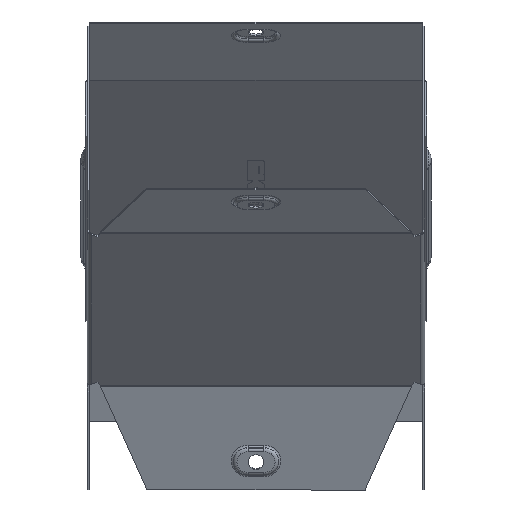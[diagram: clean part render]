
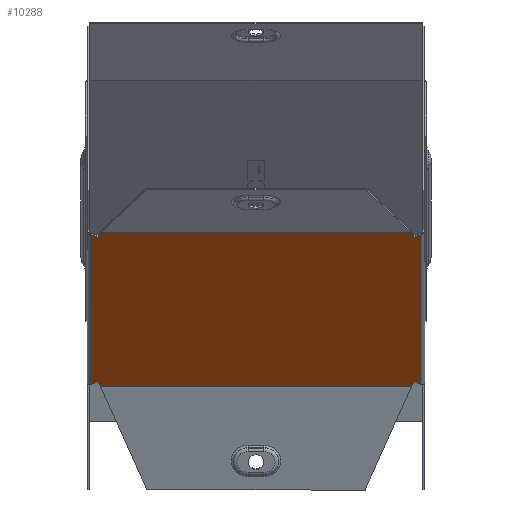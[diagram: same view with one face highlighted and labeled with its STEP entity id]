
A CAD part, top view. The second image highlights one B-rep face of the part: STEP entity #10288.
In plain terms, the highlighted planar face has unit normal (0, -0.707, 0.707).
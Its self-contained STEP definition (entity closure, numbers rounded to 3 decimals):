
#28 = CARTESIAN_POINT ( 'NONE',  ( 48.5, -33.327, -105.445 ) ) ;
#68 = VERTEX_POINT ( 'NONE', #5411 ) ;
#290 = PLANE ( 'NONE',  #4513 ) ;
#340 = EDGE_CURVE ( 'NONE', #8019, #2594, #5427, .T. ) ;
#346 = CARTESIAN_POINT ( 'NONE',  ( 70.217, 3.747, -68.371 ) ) ;
#581 = CARTESIAN_POINT ( 'NONE',  ( -73.2, 69.245, -2.873 ) ) ;
#654 = LINE ( 'NONE', #11136, #3346 ) ;
#800 = VECTOR ( 'NONE', #8642, 1000. ) ;
#934 = LINE ( 'NONE', #11237, #9920 ) ;
#1061 = ORIENTED_EDGE ( 'NONE', *, *, #2183, .T. ) ;
#1208 = EDGE_CURVE ( 'NONE', #3457, #68, #7227, .T. ) ;
#1351 = ORIENTED_EDGE ( 'NONE', *, *, #6626, .T. ) ;
#1367 = CARTESIAN_POINT ( 'NONE',  ( -70.217, 68.371, -3.747 ) ) ;
#1660 = VECTOR ( 'NONE', #9954, 1000. ) ;
#1710 = VERTEX_POINT ( 'NONE', #11220 ) ;
#1872 = DIRECTION ( 'NONE',  ( 0.383, 0.653, 0.653 ) ) ;
#2052 = CARTESIAN_POINT ( 'NONE',  ( 73.2, 70., -2.118 ) ) ;
#2100 = VERTEX_POINT ( 'NONE', #2876 ) ;
#2183 = EDGE_CURVE ( 'NONE', #8581, #2100, #4833, .T. ) ;
#2274 = CARTESIAN_POINT ( 'NONE',  ( -70.217, 3.747, -68.371 ) ) ;
#2296 = VECTOR ( 'NONE', #10876, 1000. ) ;
#2538 = ORIENTED_EDGE ( 'NONE', *, *, #9861, .T. ) ;
#2594 = VERTEX_POINT ( 'NONE', #11168 ) ;
#2734 = CARTESIAN_POINT ( 'NONE',  ( 75.299, 69.859, -2.258 ) ) ;
#2843 = ORIENTED_EDGE ( 'NONE', *, *, #1208, .T. ) ;
#2876 = CARTESIAN_POINT ( 'NONE',  ( -70.217, 68.371, -3.747 ) ) ;
#3009 = CARTESIAN_POINT ( 'NONE',  ( 73.2, 70., -2.118 ) ) ;
#3190 = EDGE_CURVE ( 'NONE', #68, #7288, #7861, .T. ) ;
#3346 = VECTOR ( 'NONE', #8609, 1000. ) ;
#3457 = VERTEX_POINT ( 'NONE', #7118 ) ;
#3562 = ORIENTED_EDGE ( 'NONE', *, *, #340, .F. ) ;
#3577 = CARTESIAN_POINT ( 'NONE',  ( 69.345, 2.258, -69.859 ) ) ;
#4029 = VERTEX_POINT ( 'NONE', #9085 ) ;
#4043 = EDGE_CURVE ( 'NONE', #8019, #1710, #6728, .T. ) ;
#4193 = LINE ( 'NONE', #6078, #800 ) ;
#4210 = EDGE_CURVE ( 'NONE', #7690, #2594, #9382, .T. ) ;
#4302 = CARTESIAN_POINT ( 'NONE',  ( -69.345, 2.258, -69.859 ) ) ;
#4505 = EDGE_CURVE ( 'NONE', #9226, #7690, #7701, .T. ) ;
#4513 = AXIS2_PLACEMENT_3D ( 'NONE', #2052, #6577, #4876 ) ;
#4541 = VECTOR ( 'NONE', #7642, 1000. ) ;
#4655 = CARTESIAN_POINT ( 'NONE',  ( -75.299, 69.859, -2.258 ) ) ;
#4729 = EDGE_CURVE ( 'NONE', #9226, #7288, #654, .T. ) ;
#4760 = ORIENTED_EDGE ( 'NONE', *, *, #3190, .T. ) ;
#4833 = LINE ( 'NONE', #1367, #4541 ) ;
#4870 = VECTOR ( 'NONE', #9712, 1000. ) ;
#4876 = DIRECTION ( 'NONE',  ( 0., 0.707, 0.707 ) ) ;
#4929 = DIRECTION ( 'NONE',  ( 0.383, -0.653, -0.653 ) ) ;
#4977 = DIRECTION ( 'NONE',  ( -0.383, 0.653, 0.653 ) ) ;
#5205 = VECTOR ( 'NONE', #5822, 1000. ) ;
#5239 = CARTESIAN_POINT ( 'NONE',  ( -69.345, 69.859, -2.258 ) ) ;
#5411 = CARTESIAN_POINT ( 'NONE',  ( -70.217, 3.747, -68.371 ) ) ;
#5427 = LINE ( 'NONE', #3009, #6543 ) ;
#5822 = DIRECTION ( 'NONE',  ( 0.924, -0.271, -0.271 ) ) ;
#6078 = CARTESIAN_POINT ( 'NONE',  ( 73.2, 69.859, -2.258 ) ) ;
#6241 = EDGE_CURVE ( 'NONE', #4029, #8581, #4193, .T. ) ;
#6287 = LINE ( 'NONE', #6723, #10469 ) ;
#6543 = VECTOR ( 'NONE', #9422, 1000. ) ;
#6577 = DIRECTION ( 'NONE',  ( 0., 0.707, -0.707 ) ) ;
#6616 = VECTOR ( 'NONE', #4929, 1000. ) ;
#6626 = EDGE_CURVE ( 'NONE', #7764, #3457, #934, .T. ) ;
#6714 = EDGE_CURVE ( 'NONE', #1710, #4029, #6287, .T. ) ;
#6723 = CARTESIAN_POINT ( 'NONE',  ( 48.5, 105.445, 33.327 ) ) ;
#6728 = LINE ( 'NONE', #2734, #1660 ) ;
#6984 = ORIENTED_EDGE ( 'NONE', *, *, #6241, .T. ) ;
#7118 = CARTESIAN_POINT ( 'NONE',  ( -73.2, 2.873, -69.245 ) ) ;
#7227 = LINE ( 'NONE', #8024, #4870 ) ;
#7288 = VERTEX_POINT ( 'NONE', #4302 ) ;
#7642 = DIRECTION ( 'NONE',  ( -0.383, -0.653, -0.653 ) ) ;
#7690 = VERTEX_POINT ( 'NONE', #346 ) ;
#7701 = LINE ( 'NONE', #28, #8239 ) ;
#7764 = VERTEX_POINT ( 'NONE', #581 ) ;
#7861 = LINE ( 'NONE', #2274, #6616 ) ;
#7952 = EDGE_LOOP ( 'NONE', ( #8328, #9344, #3562, #9742, #8755, #6984, #1061, #2538, #1351, #2843, #4760, #9829 ) ) ;
#8019 = VERTEX_POINT ( 'NONE', #9895 ) ;
#8024 = CARTESIAN_POINT ( 'NONE',  ( -75.299, 2.258, -69.859 ) ) ;
#8239 = VECTOR ( 'NONE', #1872, 1000. ) ;
#8328 = ORIENTED_EDGE ( 'NONE', *, *, #4505, .T. ) ;
#8581 = VERTEX_POINT ( 'NONE', #5239 ) ;
#8609 = DIRECTION ( 'NONE',  ( -1., 0., 0. ) ) ;
#8642 = DIRECTION ( 'NONE',  ( -1., 0., 0. ) ) ;
#8755 = ORIENTED_EDGE ( 'NONE', *, *, #6714, .T. ) ;
#9085 = CARTESIAN_POINT ( 'NONE',  ( 69.345, 69.859, -2.258 ) ) ;
#9226 = VERTEX_POINT ( 'NONE', #3577 ) ;
#9344 = ORIENTED_EDGE ( 'NONE', *, *, #4210, .T. ) ;
#9382 = LINE ( 'NONE', #10254, #5205 ) ;
#9422 = DIRECTION ( 'NONE',  ( 0., -0.707, -0.707 ) ) ;
#9439 = LINE ( 'NONE', #4655, #2296 ) ;
#9453 = DIRECTION ( 'NONE',  ( 0., -0.707, -0.707 ) ) ;
#9712 = DIRECTION ( 'NONE',  ( 0.924, 0.271, 0.271 ) ) ;
#9742 = ORIENTED_EDGE ( 'NONE', *, *, #4043, .T. ) ;
#9829 = ORIENTED_EDGE ( 'NONE', *, *, #4729, .F. ) ;
#9861 = EDGE_CURVE ( 'NONE', #2100, #7764, #9439, .T. ) ;
#9895 = CARTESIAN_POINT ( 'NONE',  ( 73.2, 69.245, -2.873 ) ) ;
#9920 = VECTOR ( 'NONE', #9453, 1000. ) ;
#9954 = DIRECTION ( 'NONE',  ( -0.924, -0.271, -0.271 ) ) ;
#10254 = CARTESIAN_POINT ( 'NONE',  ( 75.299, 2.258, -69.859 ) ) ;
#10288 = ADVANCED_FACE ( 'NONE', ( #10545 ), #290, .F. ) ;
#10469 = VECTOR ( 'NONE', #4977, 1000. ) ;
#10545 = FACE_OUTER_BOUND ( 'NONE', #7952, .T. ) ;
#10876 = DIRECTION ( 'NONE',  ( -0.924, 0.271, 0.271 ) ) ;
#11136 = CARTESIAN_POINT ( 'NONE',  ( 73.2, 2.258, -69.859 ) ) ;
#11168 = CARTESIAN_POINT ( 'NONE',  ( 73.2, 2.873, -69.245 ) ) ;
#11220 = CARTESIAN_POINT ( 'NONE',  ( 70.217, 68.371, -3.747 ) ) ;
#11237 = CARTESIAN_POINT ( 'NONE',  ( -73.2, 70., -2.118 ) ) ;
